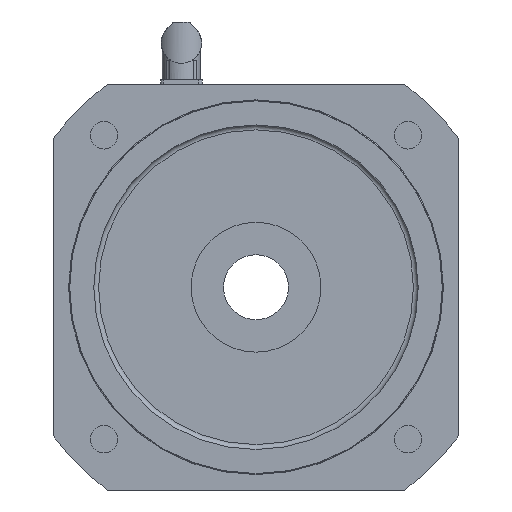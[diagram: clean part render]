
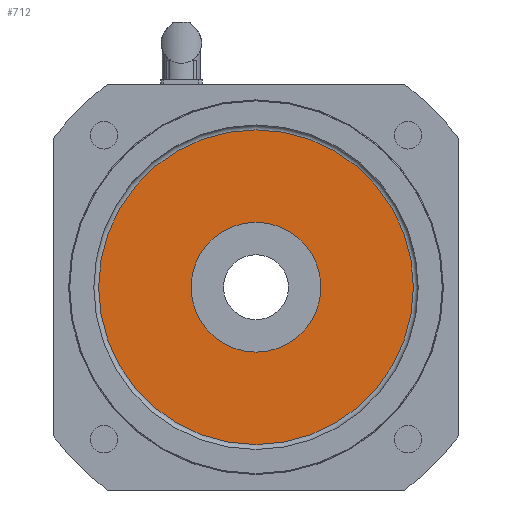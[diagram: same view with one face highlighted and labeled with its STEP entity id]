
A CAD part, front view. The second image highlights one B-rep face of the part: STEP entity #712.
In plain terms, the highlighted planar face has unit normal (0, -1, 0).
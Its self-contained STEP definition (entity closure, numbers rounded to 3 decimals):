
#422=FACE_BOUND('',#1222,.T.);
#508=CIRCLE('',#4350,40.);
#509=CIRCLE('',#4351,97.);
#712=ADVANCED_FACE('',(#422,#989),#934,.F.);
#934=PLANE('',#4352);
#989=FACE_OUTER_BOUND('',#1223,.T.);
#1222=EDGE_LOOP('',(#1615));
#1223=EDGE_LOOP('',(#1616));
#1615=ORIENTED_EDGE('',*,*,#3257,.F.);
#1616=ORIENTED_EDGE('',*,*,#3258,.T.);
#2801=VERTEX_POINT('',#6168);
#2802=VERTEX_POINT('',#6170);
#3257=EDGE_CURVE('',#2801,#2801,#508,.T.);
#3258=EDGE_CURVE('',#2802,#2802,#509,.T.);
#4350=AXIS2_PLACEMENT_3D('',#6167,#4963,#4964);
#4351=AXIS2_PLACEMENT_3D('',#6169,#4965,#4966);
#4352=AXIS2_PLACEMENT_3D('',#6171,#4967,#4968);
#4963=DIRECTION('',(0.,-1.,0.));
#4964=DIRECTION('',(0.,0.,-1.));
#4965=DIRECTION('',(0.,-1.,0.));
#4966=DIRECTION('',(0.,0.,1.));
#4967=DIRECTION('',(0.,1.,0.));
#4968=DIRECTION('',(0.,0.,1.));
#6167=CARTESIAN_POINT('',(90.,1.,90.));
#6168=CARTESIAN_POINT('',(90.,1.,50.));
#6169=CARTESIAN_POINT('',(90.,1.,90.));
#6170=CARTESIAN_POINT('',(90.,1.,187.));
#6171=CARTESIAN_POINT('',(90.,1.,90.));
